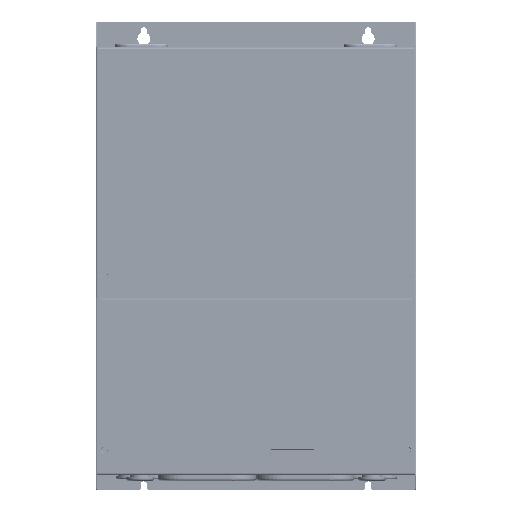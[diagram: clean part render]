
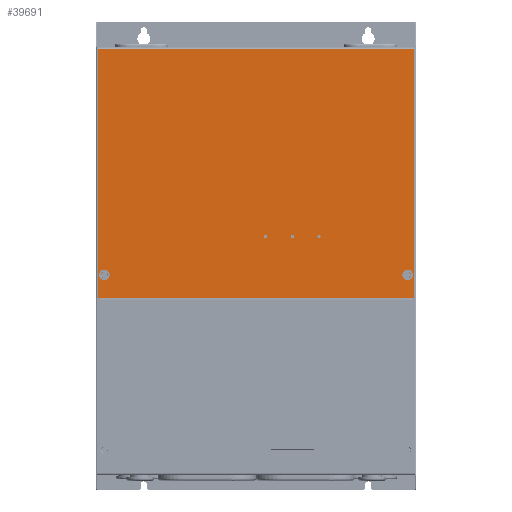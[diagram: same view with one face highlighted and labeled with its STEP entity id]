
A CAD part, top view. The second image highlights one B-rep face of the part: STEP entity #39691.
In plain terms, the highlighted planar face has unit normal (0, 0, 1) as drawn and (0, 1, 0) by its records, which use the part's own axes.
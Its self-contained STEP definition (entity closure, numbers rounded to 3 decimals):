
#37960=DIRECTION('',(0.,0.,1.));
#37961=VECTOR('',#37960,233.3);
#37962=CARTESIAN_POINT('',(-148.3,1.2,-117.5));
#37963=LINE('',#37962,#37961);
#38012=DIRECTION('',(0.,0.,-1.));
#38013=VECTOR('',#38012,233.3);
#38014=CARTESIAN_POINT('',(148.3,1.2,115.8));
#38015=LINE('',#38014,#38013);
#38086=DIRECTION('',(1.,0.,0.));
#38087=VECTOR('',#38086,296.6);
#38088=CARTESIAN_POINT('',(-148.3,1.2,115.8));
#38089=LINE('',#38088,#38087);
#38462=DIRECTION('',(1.,0.,0.));
#38463=VECTOR('',#38462,296.6);
#38464=CARTESIAN_POINT('',(-148.3,1.2,-117.5));
#38465=LINE('',#38464,#38463);
#38466=CARTESIAN_POINT('',(-59.,1.2,-59.54));
#38467=DIRECTION('',(0.,1.,0.));
#38468=DIRECTION('',(0.,0.,-1.));
#38469=AXIS2_PLACEMENT_3D('',#38466,#38467,#38468);
#38471=CARTESIAN_POINT('',(-59.,1.2,-59.54));
#38472=DIRECTION('',(0.,1.,0.));
#38473=DIRECTION('',(0.,0.,1.));
#38474=AXIS2_PLACEMENT_3D('',#38471,#38472,#38473);
#38476=CARTESIAN_POINT('',(-34.,1.2,-59.54));
#38477=DIRECTION('',(0.,1.,0.));
#38478=DIRECTION('',(0.,0.,-1.));
#38479=AXIS2_PLACEMENT_3D('',#38476,#38477,#38478);
#38481=CARTESIAN_POINT('',(-34.,1.2,-59.54));
#38482=DIRECTION('',(0.,1.,0.));
#38483=DIRECTION('',(0.,0.,1.));
#38484=AXIS2_PLACEMENT_3D('',#38481,#38482,#38483);
#38486=CARTESIAN_POINT('',(-9.,1.2,-59.54));
#38487=DIRECTION('',(0.,1.,0.));
#38488=DIRECTION('',(0.,0.,-1.));
#38489=AXIS2_PLACEMENT_3D('',#38486,#38487,#38488);
#38491=CARTESIAN_POINT('',(-9.,1.2,-59.54));
#38492=DIRECTION('',(0.,1.,0.));
#38493=DIRECTION('',(0.,0.,1.));
#38494=AXIS2_PLACEMENT_3D('',#38491,#38492,#38493);
#38496=CARTESIAN_POINT('',(-142.,1.2,-95.5));
#38497=DIRECTION('',(0.,1.,0.));
#38498=DIRECTION('',(1.,0.,0.));
#38499=AXIS2_PLACEMENT_3D('',#38496,#38497,#38498);
#38501=CARTESIAN_POINT('',(-142.,1.2,-95.5));
#38502=DIRECTION('',(0.,1.,0.));
#38503=DIRECTION('',(-1.,0.,0.));
#38504=AXIS2_PLACEMENT_3D('',#38501,#38502,#38503);
#38506=CARTESIAN_POINT('',(142.,1.2,-95.5));
#38507=DIRECTION('',(0.,1.,0.));
#38508=DIRECTION('',(1.,0.,0.));
#38509=AXIS2_PLACEMENT_3D('',#38506,#38507,#38508);
#38511=CARTESIAN_POINT('',(142.,1.2,-95.5));
#38512=DIRECTION('',(0.,1.,0.));
#38513=DIRECTION('',(-1.,0.,0.));
#38514=AXIS2_PLACEMENT_3D('',#38511,#38512,#38513);
#38616=CARTESIAN_POINT('',(-148.3,1.2,-117.5));
#38617=VERTEX_POINT('',#38616);
#38618=CARTESIAN_POINT('',(-148.3,1.2,115.8));
#38619=VERTEX_POINT('',#38618);
#38622=CARTESIAN_POINT('',(148.3,1.2,-117.5));
#38623=VERTEX_POINT('',#38622);
#38632=CARTESIAN_POINT('',(148.3,1.2,115.8));
#38633=VERTEX_POINT('',#38632);
#38742=CARTESIAN_POINT('',(-59.,1.2,-61.04));
#38743=CARTESIAN_POINT('',(-59.,1.2,-58.04));
#38744=VERTEX_POINT('',#38742);
#38745=VERTEX_POINT('',#38743);
#38746=CARTESIAN_POINT('',(-34.,1.2,-61.04));
#38747=CARTESIAN_POINT('',(-34.,1.2,-58.04));
#38748=VERTEX_POINT('',#38746);
#38749=VERTEX_POINT('',#38747);
#38750=CARTESIAN_POINT('',(-9.,1.2,-61.04));
#38751=CARTESIAN_POINT('',(-9.,1.2,-58.04));
#38752=VERTEX_POINT('',#38750);
#38753=VERTEX_POINT('',#38751);
#38754=CARTESIAN_POINT('',(-139.25,1.2,-95.5));
#38755=CARTESIAN_POINT('',(-144.75,1.2,-95.5));
#38756=VERTEX_POINT('',#38754);
#38757=VERTEX_POINT('',#38755);
#38758=CARTESIAN_POINT('',(144.75,1.2,-95.5));
#38759=CARTESIAN_POINT('',(139.25,1.2,-95.5));
#38760=VERTEX_POINT('',#38758);
#38761=VERTEX_POINT('',#38759);
#39650=CARTESIAN_POINT('',(0.,1.2,0.));
#39651=DIRECTION('',(0.,1.,0.));
#39652=DIRECTION('',(1.,0.,0.));
#39653=AXIS2_PLACEMENT_3D('',#39650,#39651,#39652);
#39654=PLANE('',#39653);
#39655=ORIENTED_EDGE('',*,*,#38878,.F.);
#39656=ORIENTED_EDGE('',*,*,#38908,.T.);
#39657=ORIENTED_EDGE('',*,*,#38940,.F.);
#39658=ORIENTED_EDGE('',*,*,#39069,.F.);
#39659=EDGE_LOOP('',(#39655,#39656,#39657,#39658));
#39660=FACE_OUTER_BOUND('',#39659,.F.);
#39662=ORIENTED_EDGE('',*,*,#39661,.T.);
#39664=ORIENTED_EDGE('',*,*,#39663,.T.);
#39665=EDGE_LOOP('',(#39662,#39664));
#39666=FACE_BOUND('',#39665,.F.);
#39668=ORIENTED_EDGE('',*,*,#39667,.T.);
#39670=ORIENTED_EDGE('',*,*,#39669,.T.);
#39671=EDGE_LOOP('',(#39668,#39670));
#39672=FACE_BOUND('',#39671,.F.);
#39674=ORIENTED_EDGE('',*,*,#39673,.T.);
#39676=ORIENTED_EDGE('',*,*,#39675,.T.);
#39677=EDGE_LOOP('',(#39674,#39676));
#39678=FACE_BOUND('',#39677,.F.);
#39680=ORIENTED_EDGE('',*,*,#39679,.T.);
#39682=ORIENTED_EDGE('',*,*,#39681,.T.);
#39683=EDGE_LOOP('',(#39680,#39682));
#39684=FACE_BOUND('',#39683,.F.);
#39686=ORIENTED_EDGE('',*,*,#39685,.T.);
#39688=ORIENTED_EDGE('',*,*,#39687,.T.);
#39689=EDGE_LOOP('',(#39686,#39688));
#39690=FACE_BOUND('',#39689,.F.);
#38470=CIRCLE('',#38469,1.5);
#38475=CIRCLE('',#38474,1.5);
#38480=CIRCLE('',#38479,1.5);
#38485=CIRCLE('',#38484,1.5);
#38490=CIRCLE('',#38489,1.5);
#38495=CIRCLE('',#38494,1.5);
#38500=CIRCLE('',#38499,2.75);
#38505=CIRCLE('',#38504,2.75);
#38510=CIRCLE('',#38509,2.75);
#38515=CIRCLE('',#38514,2.75);
#38878=EDGE_CURVE('',#38617,#38619,#37963,.T.);
#38908=EDGE_CURVE('',#38617,#38623,#38465,.T.);
#38940=EDGE_CURVE('',#38633,#38623,#38015,.T.);
#39069=EDGE_CURVE('',#38619,#38633,#38089,.T.);
#39661=EDGE_CURVE('',#38744,#38745,#38470,.T.);
#39663=EDGE_CURVE('',#38745,#38744,#38475,.T.);
#39667=EDGE_CURVE('',#38748,#38749,#38480,.T.);
#39669=EDGE_CURVE('',#38749,#38748,#38485,.T.);
#39673=EDGE_CURVE('',#38752,#38753,#38490,.T.);
#39675=EDGE_CURVE('',#38753,#38752,#38495,.T.);
#39679=EDGE_CURVE('',#38756,#38757,#38500,.T.);
#39681=EDGE_CURVE('',#38757,#38756,#38505,.T.);
#39685=EDGE_CURVE('',#38760,#38761,#38510,.T.);
#39687=EDGE_CURVE('',#38761,#38760,#38515,.T.);
#39691=ADVANCED_FACE('',(#39660,#39666,#39672,#39678,#39684,#39690),#39654,.T.);
